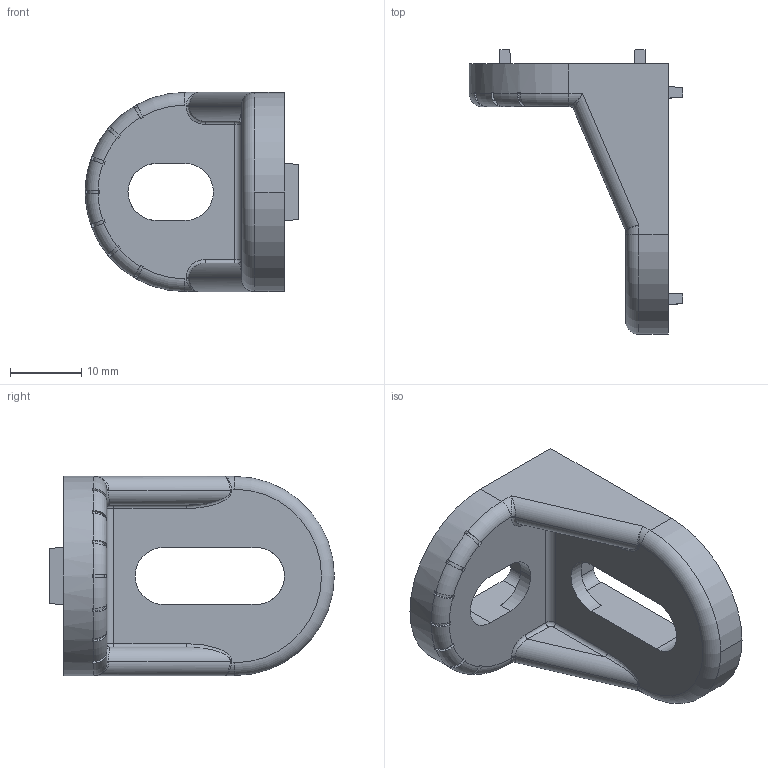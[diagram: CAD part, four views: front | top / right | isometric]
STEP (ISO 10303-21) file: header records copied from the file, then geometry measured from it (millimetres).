
FILE_DESCRIPTION (( 'STEP AP214' ), '1' );
FILE_NAME ('093wg302n08.STEP', '2013-05-17T08:56:10', ( 'User' ), ( '' ), 'SwSTEP 2.0', 'SolidWorks 2012', '' );
FILE_SCHEMA (( 'AUTOMOTIVE_DESIGN' ));
Length unit declared in the file: millimetre
Products named in the file (1): 093wg302n08
Bounding box: 30 x 40 x 28 mm (x, y, z)
Volume: 6583.8 mm3; surface area: 5126.2 mm2
Topology: 1 solids, 1 shells, 257 faces, 682 edges, 431 vertices
Faces by surface type: plane 122, cylinder 69, torus 33, cone 21, bspline 12
Entity records: 8492 total; most frequent: CARTESIAN_POINT 2037, DIRECTION 1364, ORIENTED_EDGE 1356, EDGE_CURVE 678, AXIS2_PLACEMENT_3D 478, VERTEX_POINT 431, VECTOR 408, LINE 408
